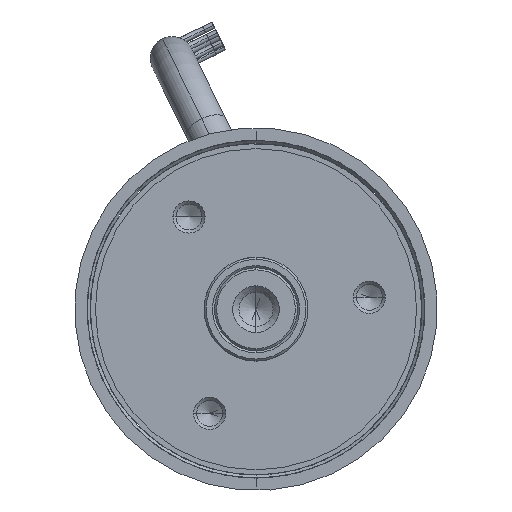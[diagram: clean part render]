
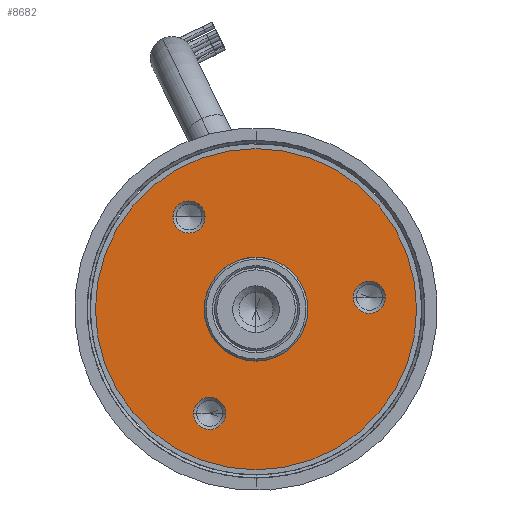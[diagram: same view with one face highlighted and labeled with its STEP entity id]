
A CAD part, left-side view. The second image highlights one B-rep face of the part: STEP entity #8682.
In plain terms, the highlighted planar face has unit normal (-1, 0, 0).
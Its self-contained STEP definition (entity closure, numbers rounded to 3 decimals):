
#109 = FACE_BOUND ( 'NONE', #678, .T. ) ;
#156 = CARTESIAN_POINT ( 'NONE',  ( 13.76, 29.544, 34.303 ) ) ;
#473 = DIRECTION ( 'NONE',  ( -1., 0., 0. ) ) ;
#549 = AXIS2_PLACEMENT_3D ( 'NONE', #8690, #5500, #1477 ) ;
#574 = ORIENTED_EDGE ( 'NONE', *, *, #3306, .F. ) ;
#634 = VERTEX_POINT ( 'NONE', #13532 ) ;
#678 = EDGE_LOOP ( 'NONE', ( #6497, #574 ) ) ;
#822 = EDGE_CURVE ( 'NONE', #6144, #6642, #11934, .T. ) ;
#828 = DIRECTION ( 'NONE',  ( 0., 1., 0. ) ) ;
#995 = VERTEX_POINT ( 'NONE', #10232 ) ;
#998 = ORIENTED_EDGE ( 'NONE', *, *, #12856, .F. ) ;
#1016 = AXIS2_PLACEMENT_3D ( 'NONE', #4692, #473, #10085 ) ;
#1083 = CARTESIAN_POINT ( 'NONE',  ( 13.76, 29.544, 34.303 ) ) ;
#1093 = FACE_BOUND ( 'NONE', #6376, .T. ) ;
#1342 = CARTESIAN_POINT ( 'NONE',  ( 13.76, 23.079, 25.404 ) ) ;
#1394 = AXIS2_PLACEMENT_3D ( 'NONE', #8895, #3824, #828 ) ;
#1477 = DIRECTION ( 'NONE',  ( 0., 1., 0. ) ) ;
#1803 = CARTESIAN_POINT ( 'NONE',  ( 13.76, 10.589, 26.554 ) ) ;
#1998 = CARTESIAN_POINT ( 'NONE',  ( 13.76, 26.003, 15.355 ) ) ;
#2138 = EDGE_CURVE ( 'NONE', #9485, #995, #2797, .T. ) ;
#2152 = DIRECTION ( 'NONE',  ( -1., 0., 0. ) ) ;
#2208 = CIRCLE ( 'NONE', #13110, 1.55 ) ;
#2225 = CIRCLE ( 'NONE', #7328, 1.55 ) ;
#2228 = DIRECTION ( 'NONE',  ( 0., 1., 0. ) ) ;
#2348 = CARTESIAN_POINT ( 'NONE',  ( 13.76, 23.079, 25.404 ) ) ;
#2382 = DIRECTION ( 'NONE',  ( 0., 0., -1. ) ) ;
#2797 = CIRCLE ( 'NONE', #6151, 1.55 ) ;
#2800 = DIRECTION ( 'NONE',  ( -1., 0., 0. ) ) ;
#3081 = EDGE_LOOP ( 'NONE', ( #10456, #5805 ) ) ;
#3160 = CARTESIAN_POINT ( 'NONE',  ( 13.76, 38.579, 25.404 ) ) ;
#3265 = DIRECTION ( 'NONE',  ( 0., 1., 0. ) ) ;
#3306 = EDGE_CURVE ( 'NONE', #8940, #13076, #6161, .T. ) ;
#3537 = DIRECTION ( 'NONE',  ( -1., 0., 0. ) ) ;
#3822 = VERTEX_POINT ( 'NONE', #10687 ) ;
#3824 = DIRECTION ( 'NONE',  ( -1., 0., 0. ) ) ;
#3825 = DIRECTION ( 'NONE',  ( 0., 1., 0. ) ) ;
#3848 = CARTESIAN_POINT ( 'NONE',  ( 13.76, 29.103, 15.355 ) ) ;
#3891 = AXIS2_PLACEMENT_3D ( 'NONE', #5513, #9681, #9738 ) ;
#3894 = AXIS2_PLACEMENT_3D ( 'NONE', #1342, #3537, #3265 ) ;
#4692 = CARTESIAN_POINT ( 'NONE',  ( 13.76, 12.139, 26.554 ) ) ;
#4856 = ORIENTED_EDGE ( 'NONE', *, *, #822, .F. ) ;
#4900 = DIRECTION ( 'NONE',  ( -1., 0., 0. ) ) ;
#4978 = ORIENTED_EDGE ( 'NONE', *, *, #5340, .F. ) ;
#5016 = EDGE_CURVE ( 'NONE', #7159, #3822, #12360, .T. ) ;
#5050 = CARTESIAN_POINT ( 'NONE',  ( 13.76, 27.553, 15.355 ) ) ;
#5340 = EDGE_CURVE ( 'NONE', #6642, #6144, #2225, .T. ) ;
#5500 = DIRECTION ( 'NONE',  ( -1., 0., 0. ) ) ;
#5513 = CARTESIAN_POINT ( 'NONE',  ( 13.76, 23.079, 25.404 ) ) ;
#5666 = CIRCLE ( 'NONE', #1394, 15.5 ) ;
#5718 = EDGE_CURVE ( 'NONE', #634, #10983, #8623, .T. ) ;
#5805 = ORIENTED_EDGE ( 'NONE', *, *, #12479, .F. ) ;
#5806 = CARTESIAN_POINT ( 'NONE',  ( 13.76, 27.994, 34.303 ) ) ;
#5940 = CARTESIAN_POINT ( 'NONE',  ( 13.76, 12.139, 26.554 ) ) ;
#6119 = EDGE_CURVE ( 'NONE', #13076, #8940, #2208, .T. ) ;
#6144 = VERTEX_POINT ( 'NONE', #1803 ) ;
#6151 = AXIS2_PLACEMENT_3D ( 'NONE', #1083, #8559, #7367 ) ;
#6154 = CIRCLE ( 'NONE', #3891, 5. ) ;
#6161 = CIRCLE ( 'NONE', #549, 1.55 ) ;
#6282 = FACE_OUTER_BOUND ( 'NONE', #8741, .T. ) ;
#6376 = EDGE_LOOP ( 'NONE', ( #4978, #4856 ) ) ;
#6497 = ORIENTED_EDGE ( 'NONE', *, *, #6119, .F. ) ;
#6642 = VERTEX_POINT ( 'NONE', #10167 ) ;
#7159 = VERTEX_POINT ( 'NONE', #8433 ) ;
#7325 = EDGE_LOOP ( 'NONE', ( #998, #10333 ) ) ;
#7328 = AXIS2_PLACEMENT_3D ( 'NONE', #5940, #4900, #3825 ) ;
#7367 = DIRECTION ( 'NONE',  ( 0., 1., 0. ) ) ;
#7513 = FACE_BOUND ( 'NONE', #3081, .T. ) ;
#8108 = CIRCLE ( 'NONE', #9221, 1.55 ) ;
#8433 = CARTESIAN_POINT ( 'NONE',  ( 13.76, 28.079, 25.404 ) ) ;
#8541 = DIRECTION ( 'NONE',  ( -1., 0., 0. ) ) ;
#8559 = DIRECTION ( 'NONE',  ( -1., 0., 0. ) ) ;
#8570 = PLANE ( 'NONE',  #9678 ) ;
#8623 = CIRCLE ( 'NONE', #9733, 15.5 ) ;
#8682 = ADVANCED_FACE ( 'NONE', ( #11570, #109, #1093, #7513, #6282 ), #8570, .T. ) ;
#8690 = CARTESIAN_POINT ( 'NONE',  ( 13.76, 27.553, 15.355 ) ) ;
#8741 = EDGE_LOOP ( 'NONE', ( #11287, #9526 ) ) ;
#8755 = DIRECTION ( 'NONE',  ( 0., 1., 0. ) ) ;
#8895 = CARTESIAN_POINT ( 'NONE',  ( 13.76, 23.079, 25.404 ) ) ;
#8940 = VERTEX_POINT ( 'NONE', #1998 ) ;
#9221 = AXIS2_PLACEMENT_3D ( 'NONE', #156, #2152, #8755 ) ;
#9485 = VERTEX_POINT ( 'NONE', #5806 ) ;
#9526 = ORIENTED_EDGE ( 'NONE', *, *, #5718, .T. ) ;
#9678 = AXIS2_PLACEMENT_3D ( 'NONE', #11011, #11970, #2382 ) ;
#9681 = DIRECTION ( 'NONE',  ( -1., 0., 0. ) ) ;
#9733 = AXIS2_PLACEMENT_3D ( 'NONE', #2348, #8541, #9776 ) ;
#9738 = DIRECTION ( 'NONE',  ( 0., 1., 0. ) ) ;
#9776 = DIRECTION ( 'NONE',  ( 0., 1., 0. ) ) ;
#10085 = DIRECTION ( 'NONE',  ( 0., 1., 0. ) ) ;
#10167 = CARTESIAN_POINT ( 'NONE',  ( 13.76, 13.689, 26.554 ) ) ;
#10232 = CARTESIAN_POINT ( 'NONE',  ( 13.76, 31.094, 34.303 ) ) ;
#10333 = ORIENTED_EDGE ( 'NONE', *, *, #2138, .F. ) ;
#10456 = ORIENTED_EDGE ( 'NONE', *, *, #5016, .F. ) ;
#10687 = CARTESIAN_POINT ( 'NONE',  ( 13.76, 18.079, 25.404 ) ) ;
#10983 = VERTEX_POINT ( 'NONE', #3160 ) ;
#11011 = CARTESIAN_POINT ( 'NONE',  ( 13.76, 23.079, 25.404 ) ) ;
#11287 = ORIENTED_EDGE ( 'NONE', *, *, #11643, .T. ) ;
#11570 = FACE_BOUND ( 'NONE', #7325, .T. ) ;
#11643 = EDGE_CURVE ( 'NONE', #10983, #634, #5666, .T. ) ;
#11934 = CIRCLE ( 'NONE', #1016, 1.55 ) ;
#11970 = DIRECTION ( 'NONE',  ( -1., 0., 0. ) ) ;
#12360 = CIRCLE ( 'NONE', #3894, 5. ) ;
#12479 = EDGE_CURVE ( 'NONE', #3822, #7159, #6154, .T. ) ;
#12856 = EDGE_CURVE ( 'NONE', #995, #9485, #8108, .T. ) ;
#13076 = VERTEX_POINT ( 'NONE', #3848 ) ;
#13110 = AXIS2_PLACEMENT_3D ( 'NONE', #5050, #2800, #2228 ) ;
#13532 = CARTESIAN_POINT ( 'NONE',  ( 13.76, 7.579, 25.404 ) ) ;
